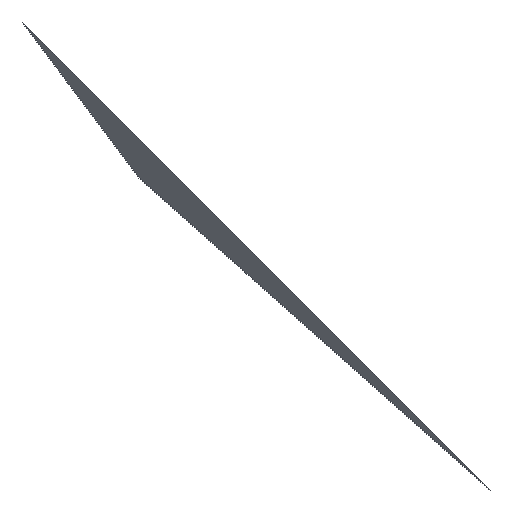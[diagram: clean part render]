
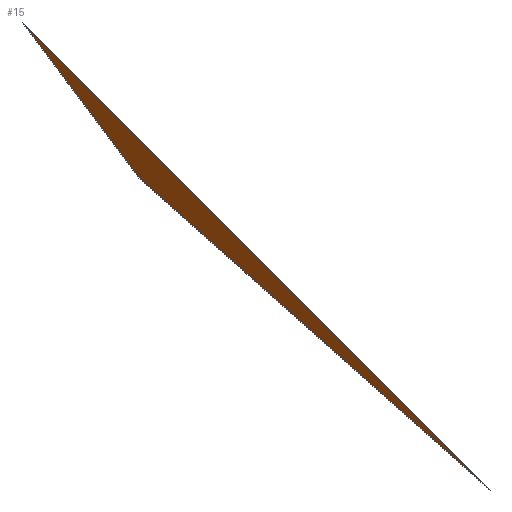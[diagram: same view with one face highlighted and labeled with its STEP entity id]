
A CAD part, left-side view. The second image highlights one B-rep face of the part: STEP entity #15.
In plain terms, the highlighted free-form (B-spline) face has degree [1, 1] with [2, 2] control points.
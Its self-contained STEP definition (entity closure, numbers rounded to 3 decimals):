
#15=ADVANCED_FACE('',(#16),#30,.T.);
#16=FACE_OUTER_BOUND('',#17,.T.);
#17=EDGE_LOOP('',(#18,#19,#20));
#18=ORIENTED_EDGE('',*,*,#21,.T.);
#19=ORIENTED_EDGE('',*,*,#22,.T.);
#20=ORIENTED_EDGE('',*,*,#23,.T.);
#21=EDGE_CURVE('',#27,#28,#24,.T.);
#22=EDGE_CURVE('',#28,#29,#25,.T.);
#23=EDGE_CURVE('',#29,#27,#26,.T.);
#24=B_SPLINE_CURVE_WITH_KNOTS('',1,(#64,#65),.UNSPECIFIED.,.F.,.F.,(2,2),
(0.,19.209),.UNSPECIFIED.);
#25=B_SPLINE_CURVE_WITH_KNOTS('',1,(#66,#67),.UNSPECIFIED.,.F.,.F.,(2,2),
(0.,13.928),.UNSPECIFIED.);
#26=B_SPLINE_CURVE_WITH_KNOTS('',1,(#68,#69),.UNSPECIFIED.,.F.,.F.,(2,2),
(0.,5.385),.UNSPECIFIED.);
#27=VERTEX_POINT('',#61);
#28=VERTEX_POINT('',#62);
#29=VERTEX_POINT('',#63);
#30=B_SPLINE_SURFACE_WITH_KNOTS('',1,1,((#57,#58),(#59,#60)),
 .UNSPECIFIED.,.F.,.F.,.F.,(2,2),(2,2),(0.,19.209),(0.,5.385),
 .UNSPECIFIED.);
#57=CARTESIAN_POINT('',(3.,5.,4.));
#58=CARTESIAN_POINT('',(1.,2.,0.));
#59=CARTESIAN_POINT('',(-6.,-7.,-8.));
#60=CARTESIAN_POINT('',(-8.,-10.,-12.));
#61=CARTESIAN_POINT('',(3.,5.,4.));
#62=CARTESIAN_POINT('',(-6.,-7.,-8.));
#63=CARTESIAN_POINT('',(1.,2.,0.));
#64=CARTESIAN_POINT('',(3.,5.,4.));
#65=CARTESIAN_POINT('',(-6.,-7.,-8.));
#66=CARTESIAN_POINT('',(-6.,-7.,-8.));
#67=CARTESIAN_POINT('',(1.,2.,0.));
#68=CARTESIAN_POINT('',(1.,2.,0.));
#69=CARTESIAN_POINT('',(3.,5.,4.));
